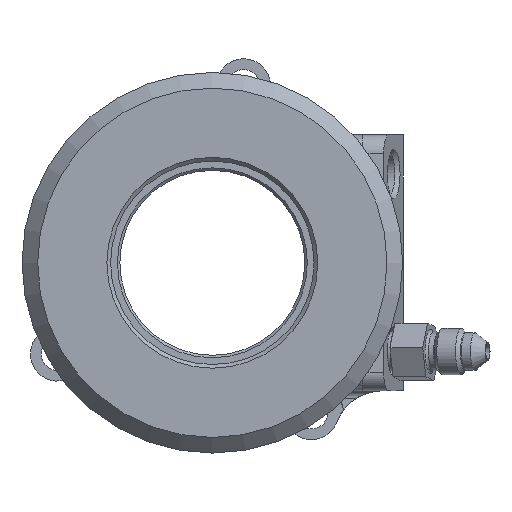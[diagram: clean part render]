
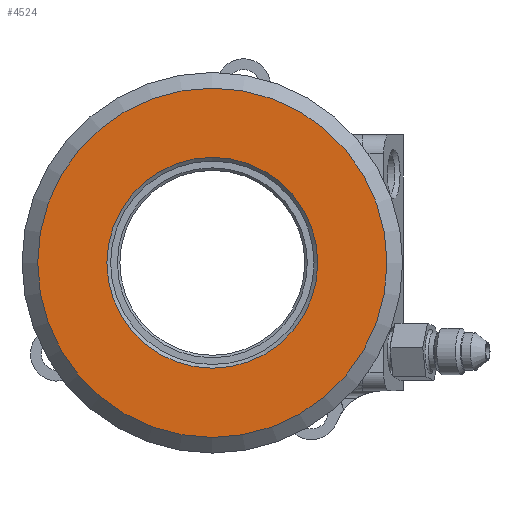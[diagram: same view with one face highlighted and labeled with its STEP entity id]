
A CAD part, front view. The second image highlights one B-rep face of the part: STEP entity #4524.
In plain terms, the highlighted planar face has unit normal (0, -1, 0).
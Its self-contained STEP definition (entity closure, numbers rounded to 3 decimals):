
#146=PLANE('',#4856);
#302=CIRCLE('',#4851,35.975);
#304=CIRCLE('',#4855,21.717);
#1365=ORIENTED_EDGE('',*,*,#1879,.F.);
#1366=ORIENTED_EDGE('',*,*,#1877,.F.);
#1877=EDGE_CURVE('',#2197,#2197,#302,.T.);
#1879=EDGE_CURVE('',#2199,#2199,#304,.T.);
#2197=VERTEX_POINT('',#7653);
#2199=VERTEX_POINT('',#7659);
#2542=EDGE_LOOP('',(#1365));
#2543=EDGE_LOOP('',(#1366));
#2835=FACE_BOUND('',#2542,.T.);
#2836=FACE_BOUND('',#2543,.T.);
#4524=ADVANCED_FACE('',(#2835,#2836),#146,.T.);
#4851=AXIS2_PLACEMENT_3D('',#7652,#5644,#5645);
#4855=AXIS2_PLACEMENT_3D('',#7658,#5652,#5653);
#4856=AXIS2_PLACEMENT_3D('',#7660,#5654,#5655);
#5644=DIRECTION('',(0.,1.,0.));
#5645=DIRECTION('',(-1.,0.,0.));
#5652=DIRECTION('',(0.,-1.,0.));
#5653=DIRECTION('',(0.,0.,-1.));
#5654=DIRECTION('',(0.,-1.,0.));
#5655=DIRECTION('',(-0.927,0.,0.374));
#7652=CARTESIAN_POINT('',(0.,-10.846,0.));
#7653=CARTESIAN_POINT('',(-35.975,-10.846,0.));
#7658=CARTESIAN_POINT('',(0.,-10.846,0.));
#7659=CARTESIAN_POINT('',(0.,-10.846,-21.717));
#7660=CARTESIAN_POINT('',(47.38,-10.846,20.15));
